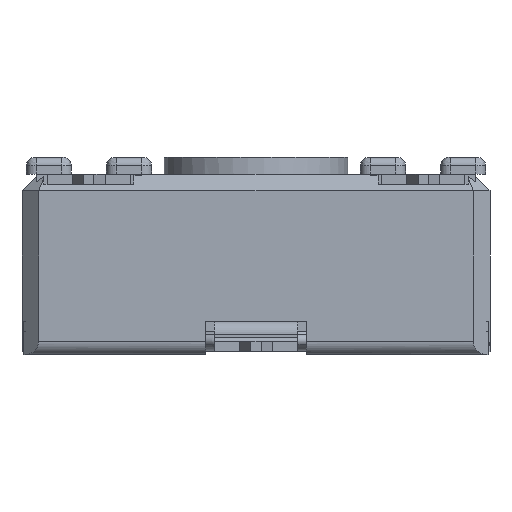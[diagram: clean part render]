
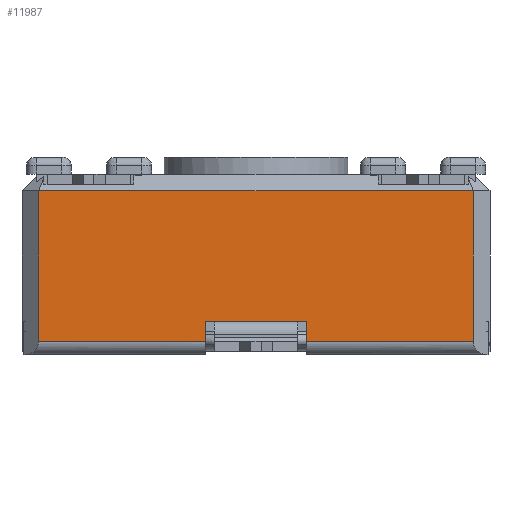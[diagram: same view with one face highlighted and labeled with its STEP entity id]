
A CAD part, front view. The second image highlights one B-rep face of the part: STEP entity #11987.
In plain terms, the highlighted planar face has unit normal (0, -1, 0).
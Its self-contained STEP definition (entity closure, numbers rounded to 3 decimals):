
#780=FACE_OUTER_BOUND('',#1382,.T.);
#1382=EDGE_LOOP('',(#10088,#10089,#10090,#10091,#10092,#10093,#10094,#10095,
#10096,#10097));
#1629=LINE('',#16970,#2881);
#1789=LINE('',#17347,#3041);
#2292=LINE('',#18758,#3544);
#2300=LINE('',#18775,#3552);
#2316=LINE('',#18815,#3568);
#2317=LINE('',#18820,#3569);
#2587=LINE('',#19594,#3839);
#2597=LINE('',#19612,#3849);
#2614=LINE('',#19656,#3866);
#2618=LINE('',#19662,#3870);
#2881=VECTOR('',#13627,10.);
#3041=VECTOR('',#13947,10.);
#3544=VECTOR('',#15120,10.);
#3552=VECTOR('',#15132,10.);
#3568=VECTOR('',#15168,10.);
#3569=VECTOR('',#15175,10.);
#3839=VECTOR('',#15889,10.);
#3849=VECTOR('',#15909,10.);
#3866=VECTOR('',#15950,10.);
#3870=VECTOR('',#15958,10.);
#4541=VERTEX_POINT('',#16968);
#4542=VERTEX_POINT('',#16969);
#4679=VERTEX_POINT('',#17346);
#5107=VERTEX_POINT('',#18755);
#5108=VERTEX_POINT('',#18757);
#5115=VERTEX_POINT('',#18773);
#5129=VERTEX_POINT('',#18814);
#5130=VERTEX_POINT('',#18818);
#5380=VERTEX_POINT('',#19593);
#5388=VERTEX_POINT('',#19654);
#5730=EDGE_CURVE('',#4541,#4542,#1629,.T.);
#5924=EDGE_CURVE('',#4679,#4541,#1789,.T.);
#6568=EDGE_CURVE('',#5107,#5108,#2292,.T.);
#6577=EDGE_CURVE('',#5107,#5115,#2300,.T.);
#6597=EDGE_CURVE('',#4679,#5129,#2316,.T.);
#6600=EDGE_CURVE('',#5129,#5130,#2317,.T.);
#6977=EDGE_CURVE('',#5380,#5108,#2587,.T.);
#6987=EDGE_CURVE('',#4542,#5380,#2597,.T.);
#7005=EDGE_CURVE('',#5388,#5115,#2614,.T.);
#7009=EDGE_CURVE('',#5130,#5388,#2618,.T.);
#10088=ORIENTED_EDGE('',*,*,#6568,.F.);
#10089=ORIENTED_EDGE('',*,*,#6577,.T.);
#10090=ORIENTED_EDGE('',*,*,#7005,.F.);
#10091=ORIENTED_EDGE('',*,*,#7009,.F.);
#10092=ORIENTED_EDGE('',*,*,#6600,.F.);
#10093=ORIENTED_EDGE('',*,*,#6597,.F.);
#10094=ORIENTED_EDGE('',*,*,#5924,.T.);
#10095=ORIENTED_EDGE('',*,*,#5730,.T.);
#10096=ORIENTED_EDGE('',*,*,#6987,.T.);
#10097=ORIENTED_EDGE('',*,*,#6977,.T.);
#10844=PLANE('',#12953);
#11987=ADVANCED_FACE('',(#780),#10844,.T.);
#12953=AXIS2_PLACEMENT_3D('',#19661,#15956,#15957);
#13627=DIRECTION('',(1.,0.,0.));
#13947=DIRECTION('',(1.,0.,0.));
#15120=DIRECTION('',(-1.,0.,0.));
#15132=DIRECTION('',(0.,0.,1.));
#15168=DIRECTION('',(0.,0.,-1.));
#15175=DIRECTION('',(-1.,0.,0.));
#15889=DIRECTION('',(0.,0.,-1.));
#15909=DIRECTION('',(1.,0.,0.));
#15950=DIRECTION('',(1.,0.,0.));
#15956=DIRECTION('center_axis',(0.,-1.,0.));
#15957=DIRECTION('ref_axis',(1.,0.,0.));
#15958=DIRECTION('',(0.,0.,1.));
#16968=CARTESIAN_POINT('',(-11.405,0.3,0.));
#16969=CARTESIAN_POINT('',(-8.905,0.3,0.));
#16970=CARTESIAN_POINT('',(-16.655,0.3,0.));
#17346=CARTESIAN_POINT('',(-11.655,0.3,0.));
#17347=CARTESIAN_POINT('',(-16.655,0.3,0.));
#18755=CARTESIAN_POINT('',(-3.655,0.3,-0.6));
#18757=CARTESIAN_POINT('',(-8.655,0.3,-0.6));
#18758=CARTESIAN_POINT('',(-11.325,0.3,-0.6));
#18773=CARTESIAN_POINT('',(-3.655,0.3,3.9));
#18775=CARTESIAN_POINT('',(-3.655,0.3,0.));
#18814=CARTESIAN_POINT('',(-11.655,0.3,-0.6));
#18815=CARTESIAN_POINT('',(-11.655,0.3,-0.3));
#18818=CARTESIAN_POINT('',(-16.655,0.3,-0.6));
#18820=CARTESIAN_POINT('',(-15.484,0.3,-0.6));
#19593=CARTESIAN_POINT('',(-8.655,0.3,0.));
#19594=CARTESIAN_POINT('',(-8.655,0.3,0.));
#19612=CARTESIAN_POINT('',(-16.655,0.3,0.));
#19654=CARTESIAN_POINT('',(-16.655,0.3,3.9));
#19656=CARTESIAN_POINT('',(-13.405,0.3,3.9));
#19661=CARTESIAN_POINT('Origin',(-16.655,0.3,0.));
#19662=CARTESIAN_POINT('',(-16.655,0.3,0.));
